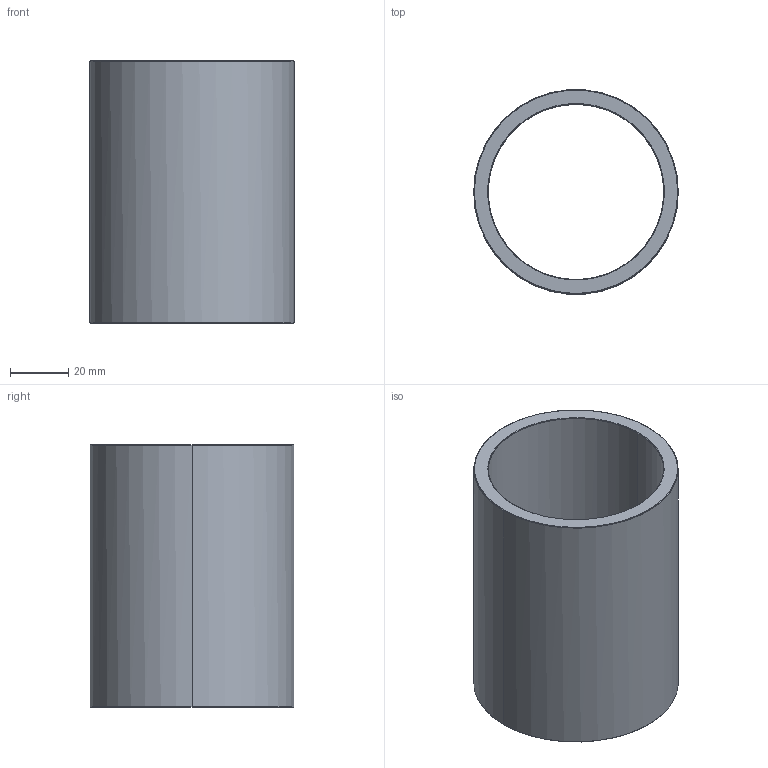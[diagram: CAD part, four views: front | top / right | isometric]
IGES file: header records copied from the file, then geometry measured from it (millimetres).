
Start section: Write IGES format                                    datakit 2008 (c)
Global section: file name: Unknown; native system: DATAKIT Converter; preprocessor: Unknown; author: Unknown; organization: Unknown; date: 950613.180003; units: millimetre
Bounding box: 70 x 69.82 x 90 mm (x, y, z)
Surface area: 38703 mm2 (no closed solid volume)
Topology: 0 solids, 0 shells, 14 faces, 56 edges, 56 vertices
Faces by surface type: revolution 12, bspline 2
